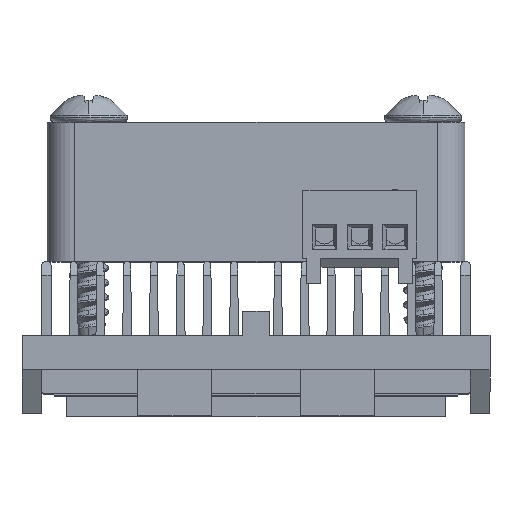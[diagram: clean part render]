
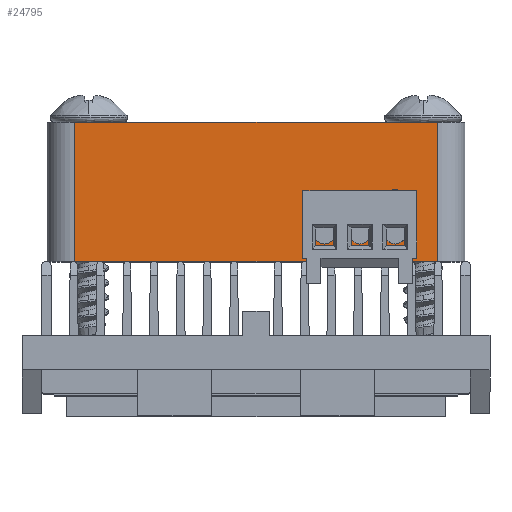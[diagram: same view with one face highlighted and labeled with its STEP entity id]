
A CAD part, top view. The second image highlights one B-rep face of the part: STEP entity #24795.
In plain terms, the highlighted planar face has unit normal (0, 0, 1).
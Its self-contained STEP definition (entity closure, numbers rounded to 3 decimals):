
#667 = VERTEX_POINT ( 'NONE', #36224 ) ;
#690 = FACE_BOUND ( 'NONE', #36952, .T. ) ;
#928 = PLANE ( 'NONE',  #21809 ) ;
#4047 = ORIENTED_EDGE ( 'NONE', *, *, #15087, .F. ) ;
#4053 = CIRCLE ( 'NONE', #8733, 0.76 ) ;
#4106 = FACE_BOUND ( 'NONE', #45728, .T. ) ;
#4134 = CIRCLE ( 'NONE', #14309, 0.76 ) ;
#4530 = LINE ( 'NONE', #12128, #29318 ) ;
#5085 = FACE_OUTER_BOUND ( 'NONE', #17069, .T. ) ;
#5701 = VECTOR ( 'NONE', #10164, 1000. ) ;
#6044 = DIRECTION ( 'NONE',  ( 0., 0., 1. ) ) ;
#6978 = EDGE_CURVE ( 'NONE', #41781, #9676, #18486, .T. ) ;
#7170 = EDGE_LOOP ( 'NONE', ( #41540, #44344 ) ) ;
#8012 = FACE_BOUND ( 'NONE', #7170, .T. ) ;
#8733 = AXIS2_PLACEMENT_3D ( 'NONE', #13700, #14415, #29070 ) ;
#9617 = CARTESIAN_POINT ( 'NONE',  ( 6.7, 11.5, 15. ) ) ;
#9676 = VERTEX_POINT ( 'NONE', #33664 ) ;
#9924 = EDGE_CURVE ( 'NONE', #667, #28531, #39176, .T. ) ;
#9966 = CARTESIAN_POINT ( 'NONE',  ( 10.76, 11.5, 15. ) ) ;
#10164 = DIRECTION ( 'NONE',  ( 1., 0., 0. ) ) ;
#10956 = CARTESIAN_POINT ( 'NONE',  ( 7.46, 11.5, 15. ) ) ;
#11429 = ORIENTED_EDGE ( 'NONE', *, *, #9924, .T. ) ;
#11437 = EDGE_CURVE ( 'NONE', #34601, #46826, #4053, .T. ) ;
#11465 = DIRECTION ( 'NONE',  ( -1., 0., 0. ) ) ;
#11951 = DIRECTION ( 'NONE',  ( 0., 0., -1. ) ) ;
#12128 = CARTESIAN_POINT ( 'NONE',  ( -13., 19.5, 15. ) ) ;
#12187 = CARTESIAN_POINT ( 'NONE',  ( -13., 19.5, 15. ) ) ;
#13242 = LINE ( 'NONE', #24960, #47017 ) ;
#13700 = CARTESIAN_POINT ( 'NONE',  ( 10., 11.5, 15. ) ) ;
#13981 = DIRECTION ( 'NONE',  ( -1., 0., 0. ) ) ;
#14207 = CARTESIAN_POINT ( 'NONE',  ( 9.24, 11.5, 15. ) ) ;
#14309 = AXIS2_PLACEMENT_3D ( 'NONE', #35728, #31126, #16478 ) ;
#14405 = DIRECTION ( 'NONE',  ( -1., 0., 0. ) ) ;
#14415 = DIRECTION ( 'NONE',  ( 0., 0., 1. ) ) ;
#14460 = CARTESIAN_POINT ( 'NONE',  ( 4.92, 11.5, 15. ) ) ;
#14921 = CARTESIAN_POINT ( 'NONE',  ( 13., 19.5, 15. ) ) ;
#15087 = EDGE_CURVE ( 'NONE', #17292, #46054, #29183, .T. ) ;
#16478 = DIRECTION ( 'NONE',  ( -1., 0., 0. ) ) ;
#17069 = EDGE_LOOP ( 'NONE', ( #11429, #19904, #39063, #38179 ) ) ;
#17268 = EDGE_CURVE ( 'NONE', #9676, #41781, #4134, .T. ) ;
#17292 = VERTEX_POINT ( 'NONE', #9617 ) ;
#18120 = DIRECTION ( 'NONE',  ( 0., 0., 1. ) ) ;
#18486 = CIRCLE ( 'NONE', #30944, 0.76 ) ;
#19068 = EDGE_CURVE ( 'NONE', #47004, #28531, #31264, .T. ) ;
#19222 = DIRECTION ( 'NONE',  ( 0., -1., 0. ) ) ;
#19398 = AXIS2_PLACEMENT_3D ( 'NONE', #48343, #18120, #44900 ) ;
#19904 = ORIENTED_EDGE ( 'NONE', *, *, #19068, .F. ) ;
#21055 = CARTESIAN_POINT ( 'NONE',  ( 8.22, 11.5, 15. ) ) ;
#21247 = VERTEX_POINT ( 'NONE', #39041 ) ;
#21470 = CARTESIAN_POINT ( 'NONE',  ( 7.46, 11.5, 15. ) ) ;
#21543 = EDGE_CURVE ( 'NONE', #46054, #17292, #29076, .T. ) ;
#21780 = ORIENTED_EDGE ( 'NONE', *, *, #21543, .F. ) ;
#21809 = AXIS2_PLACEMENT_3D ( 'NONE', #12187, #11951, #11465 ) ;
#23283 = EDGE_CURVE ( 'NONE', #21247, #47004, #13242, .T. ) ;
#24795 = ADVANCED_FACE ( 'NONE', ( #5085, #8012, #690, #4106 ), #928, .F. ) ;
#24960 = CARTESIAN_POINT ( 'NONE',  ( -13., 19.5, 15. ) ) ;
#25044 = CARTESIAN_POINT ( 'NONE',  ( 13., 9.5, 15. ) ) ;
#25087 = CARTESIAN_POINT ( 'NONE',  ( -13., 9.5, 15. ) ) ;
#25375 = VECTOR ( 'NONE', #28764, 1000. ) ;
#28302 = AXIS2_PLACEMENT_3D ( 'NONE', #10956, #36570, #14405 ) ;
#28531 = VERTEX_POINT ( 'NONE', #25044 ) ;
#28737 = CARTESIAN_POINT ( 'NONE',  ( 4.16, 11.5, 15. ) ) ;
#28764 = DIRECTION ( 'NONE',  ( 0., -1., 0. ) ) ;
#29070 = DIRECTION ( 'NONE',  ( -1., 0., 0. ) ) ;
#29076 = CIRCLE ( 'NONE', #28302, 0.76 ) ;
#29183 = CIRCLE ( 'NONE', #35375, 0.76 ) ;
#29318 = VECTOR ( 'NONE', #19222, 1000. ) ;
#30321 = CIRCLE ( 'NONE', #19398, 0.76 ) ;
#30944 = AXIS2_PLACEMENT_3D ( 'NONE', #14460, #32297, #13981 ) ;
#31126 = DIRECTION ( 'NONE',  ( 0., 0., 1. ) ) ;
#31264 = LINE ( 'NONE', #46571, #25375 ) ;
#31319 = DIRECTION ( 'NONE',  ( 1., 0., 0. ) ) ;
#32184 = DIRECTION ( 'NONE',  ( -1., 0., 0. ) ) ;
#32297 = DIRECTION ( 'NONE',  ( 0., 0., 1. ) ) ;
#33664 = CARTESIAN_POINT ( 'NONE',  ( 5.68, 11.5, 15. ) ) ;
#34601 = VERTEX_POINT ( 'NONE', #9966 ) ;
#35180 = ORIENTED_EDGE ( 'NONE', *, *, #6978, .F. ) ;
#35375 = AXIS2_PLACEMENT_3D ( 'NONE', #21470, #6044, #32184 ) ;
#35647 = ORIENTED_EDGE ( 'NONE', *, *, #17268, .F. ) ;
#35728 = CARTESIAN_POINT ( 'NONE',  ( 4.92, 11.5, 15. ) ) ;
#36224 = CARTESIAN_POINT ( 'NONE',  ( -13., 9.5, 15. ) ) ;
#36570 = DIRECTION ( 'NONE',  ( 0., 0., 1. ) ) ;
#36952 = EDGE_LOOP ( 'NONE', ( #4047, #21780 ) ) ;
#37126 = EDGE_CURVE ( 'NONE', #21247, #667, #4530, .T. ) ;
#38179 = ORIENTED_EDGE ( 'NONE', *, *, #37126, .T. ) ;
#38930 = EDGE_CURVE ( 'NONE', #46826, #34601, #30321, .T. ) ;
#39041 = CARTESIAN_POINT ( 'NONE',  ( -13., 19.5, 15. ) ) ;
#39063 = ORIENTED_EDGE ( 'NONE', *, *, #23283, .F. ) ;
#39176 = LINE ( 'NONE', #25087, #5701 ) ;
#41540 = ORIENTED_EDGE ( 'NONE', *, *, #38930, .F. ) ;
#41781 = VERTEX_POINT ( 'NONE', #28737 ) ;
#44344 = ORIENTED_EDGE ( 'NONE', *, *, #11437, .F. ) ;
#44900 = DIRECTION ( 'NONE',  ( -1., 0., 0. ) ) ;
#45728 = EDGE_LOOP ( 'NONE', ( #35180, #35647 ) ) ;
#46054 = VERTEX_POINT ( 'NONE', #21055 ) ;
#46571 = CARTESIAN_POINT ( 'NONE',  ( 13., 19.5, 15. ) ) ;
#46826 = VERTEX_POINT ( 'NONE', #14207 ) ;
#47004 = VERTEX_POINT ( 'NONE', #14921 ) ;
#47017 = VECTOR ( 'NONE', #31319, 1000. ) ;
#48343 = CARTESIAN_POINT ( 'NONE',  ( 10., 11.5, 15. ) ) ;
